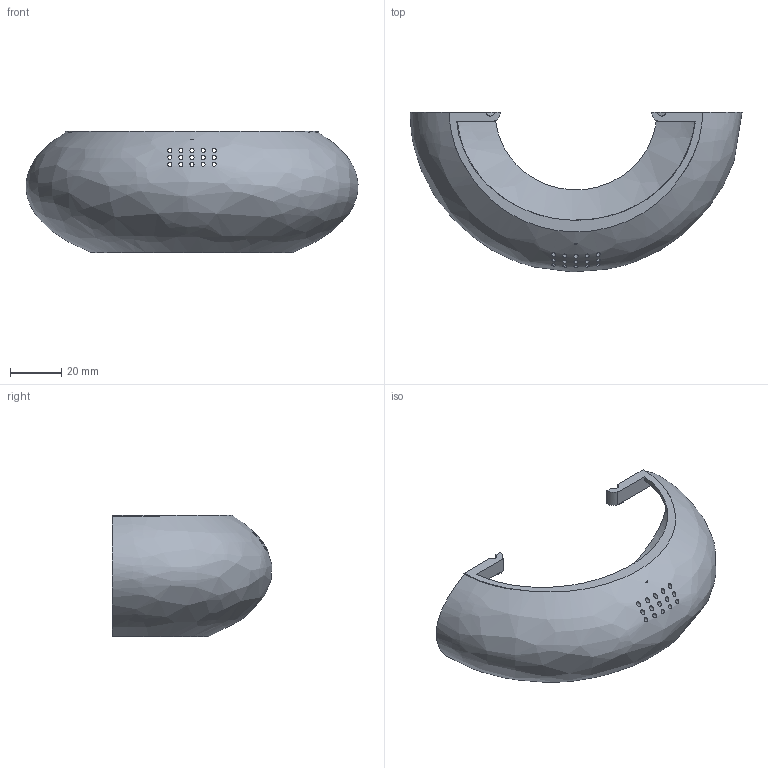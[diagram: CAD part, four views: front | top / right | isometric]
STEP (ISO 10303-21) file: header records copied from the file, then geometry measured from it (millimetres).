
FILE_DESCRIPTION(('FreeCAD Model'),'2;1');
FILE_NAME('Open CASCADE Shape Model','2026-11-20T08:25:33',('FreeCAD'),( 'FreeCAD'),'Open CASCADE STEP processor 7.8','FreeCAD','Unknown');
FILE_SCHEMA(('AUTOMOTIVE_DESIGN { 1 0 10303 214 1 1 1 1 }'));
Length unit declared in the file: millimetre
Products named in the file (1): Open CASCADE STEP translator 7.8 11
Bounding box: 128.96 x 62.08 x 47 mm (x, y, z)
Volume: 28006.7 mm3; surface area: 25221.1 mm2
Topology: 1 solids, 1 shells, 42 faces, 149 edges, 110 vertices
Faces by surface type: cylinder 20, plane 17, bspline 5
Full cylindrical faces by diameter (mm): 1.6 x15
Entity records: 6394 total; most frequent: CARTESIAN_POINT 5198, ORIENTED_EDGE 298, DIRECTION 151, EDGE_CURVE 149, VERTEX_POINT 110, B_SPLINE_CURVE_WITH_KNOTS 87, FACE_BOUND 73, EDGE_LOOP 73
